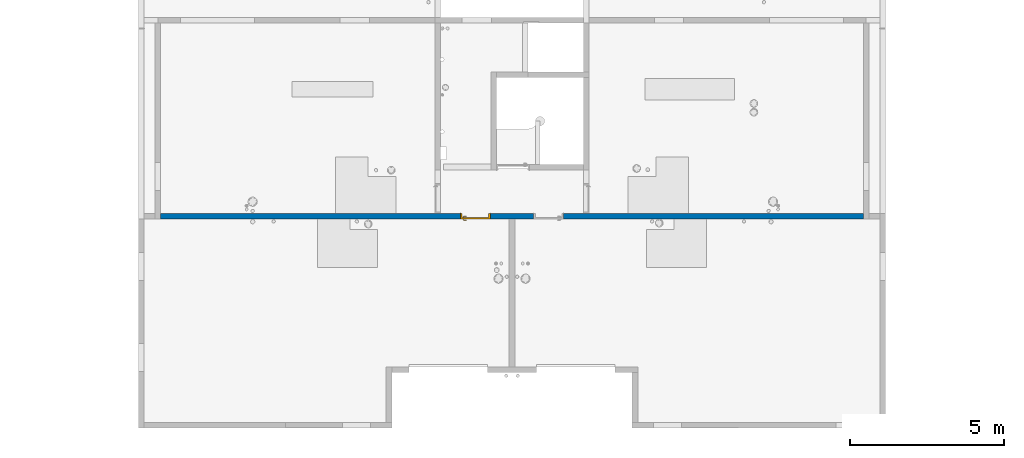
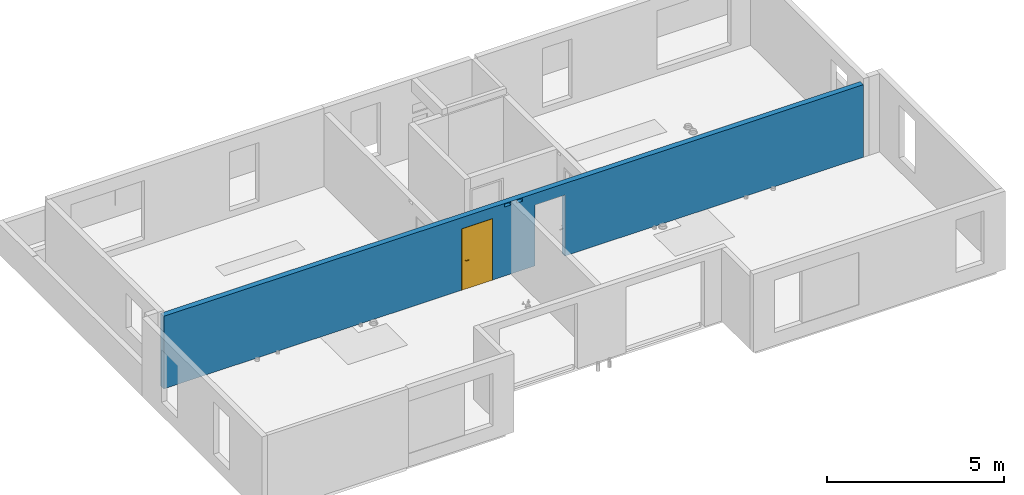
# One storey, part 8 of 28: 1 door, 1 wall, 6 openings.
"""IFC2X3 building model written with IfcOpenShell, lengths in centimetres."""

from ifc_helpers import new_model, entity, si_unit, converted_unit, derived_unit, direction, frame, frame_2d, origin, place, context, subcontext, project, spatial, rectangle, extrude, faceted_brep, source, transform, mapped, material, material_list, layer, layer_set, layer_usage, type_object, type_shapes, element, fill, save


model = new_model("IFC2X3")

# Units and contexts
model_context = context("Model", 3, precision=0.001, world=origin(), true_north=direction((6.12303176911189e-17, 1.0)))
body_context = subcontext(model_context, "Body", "Model", "MODEL_VIEW")
ifc_project = project(units=[si_unit("LENGTHUNIT", "METRE", prefix="CENTI"), si_unit("AREAUNIT", "SQUARE_METRE"), si_unit("VOLUMEUNIT", "CUBIC_METRE"), converted_unit("PLANEANGLEUNIT", "DEGREE", entity("IfcRatioMeasure", 0.0174532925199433), si_unit("PLANEANGLEUNIT", "RADIAN"), dimensions=[0, 0, 0, 0, 0, 0, 0]), si_unit("MASSUNIT", "GRAM", prefix="KILO"), derived_unit("MASSDENSITYUNIT", [(si_unit("MASSUNIT", "GRAM", prefix="KILO"), 1), (si_unit("LENGTHUNIT", "METRE"), -3)]), si_unit("TIMEUNIT", "SECOND"), si_unit("FREQUENCYUNIT", "HERTZ"), si_unit("THERMODYNAMICTEMPERATUREUNIT", "DEGREE_CELSIUS"), derived_unit("THERMALTRANSMITTANCEUNIT", [(si_unit("MASSUNIT", "GRAM", prefix="KILO"), 1), (si_unit("THERMODYNAMICTEMPERATUREUNIT", "KELVIN"), -1), (si_unit("TIMEUNIT", "SECOND"), -3)]), derived_unit("VOLUMETRICFLOWRATEUNIT", [(si_unit("LENGTHUNIT", "METRE"), 3), (si_unit("TIMEUNIT", "SECOND"), -1)]), si_unit("ELECTRICCURRENTUNIT", "AMPERE"), si_unit("ELECTRICVOLTAGEUNIT", "VOLT"), si_unit("POWERUNIT", "WATT"), si_unit("FORCEUNIT", "NEWTON"), si_unit("ILLUMINANCEUNIT", "LUX"), si_unit("LUMINOUSFLUXUNIT", "LUMEN"), si_unit("LUMINOUSINTENSITYUNIT", "CANDELA"), derived_unit("USERDEFINED", [(si_unit("MASSUNIT", "GRAM", prefix="KILO"), -1), (si_unit("LENGTHUNIT", "METRE"), -2), (si_unit("TIMEUNIT", "SECOND"), 3), (si_unit("LUMINOUSFLUXUNIT", "LUMEN"), 1)]), derived_unit("LINEARVELOCITYUNIT", [(si_unit("LENGTHUNIT", "METRE"), 1), (si_unit("TIMEUNIT", "SECOND"), -1)]), si_unit("PRESSUREUNIT", "PASCAL"), derived_unit("USERDEFINED", [(si_unit("LENGTHUNIT", "METRE"), -2), (si_unit("MASSUNIT", "GRAM", prefix="KILO"), 1), (si_unit("TIMEUNIT", "SECOND"), -2)])], contexts=[model_context])

# Site, building, storey
site_placement = place(None, origin())
site = spatial("IfcSite", under=ifc_project, at=site_placement, Name="Default", CompositionType="ELEMENT")
building_placement = place(site_placement, origin())
building = spatial("IfcBuilding", under=site, at=building_placement, Name="CAGE 03", CompositionType="ELEMENT")
storey_placement = place(building_placement, frame((0.0, 0.0, 1420.0)))
storey = spatial("IfcBuildingStorey", under=building, at=storey_placement, Name="R+5", CompositionType="ELEMENT", Elevation=1420.0)

# Wall, openings, door
ifc_material_1 = material(Name="Béton, C25/30")
ifc_layer = layer(ifc_material_1, 18.0)
ifc_layer_set = layer_set([ifc_layer], Name="Mur de base:Voile BA 18")
ifc_layer_usage = layer_usage(ifc_layer_set, "AXIS2", "NEGATIVE", 9.0)
wall_type = type_object("IfcWallType", Name="Mur de base:Voile BA 18", PredefinedType="STANDARD", material=ifc_layer_set)
wall_placement = place(storey_placement, frame((5941.36582014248, 4483.6606660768, 0.0)))
wall = element("IfcWallStandardCase", 1, at=wall_placement, inside=storey, type_object=wall_type, material=ifc_layer_usage, Name="Mur de base:Voile BA 18", ObjectType="Mur de base:Voile BA 18", context=body_context, shape_type="SweptSolid", body=[
    extrude(rectangle(XDim=2279.99999999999, YDim=17.9999999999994, at=frame_2d((1140.0, -1.73194791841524e-13), x_axis=(-1.0, 0.0))), origin(), (0.0, 0.0, 1.0), 250.0),
])
opening_1_placement = place(wall_placement, origin())
element("IfcOpeningElement", 2, at=opening_1_placement, cuts=wall, Name="Mur de base:Voile BA 18", ObjectType="Opening", context=body_context, shape_type="SweptSolid", body=[
    extrude(rectangle(XDim=210.000000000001, YDim=18.0000000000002, at=frame_2d((4.33431068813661e-13, -2.1316282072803e-13), x_axis=(0.0, 1.0))), frame((1381.0, 9.0, 105.0), z_axis=(0.0, 1.0, 0.0), x_axis=(1.0, 0.0, 0.0)), (0.0, 0.0, 1.0), 96.9999999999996),
])
opening_2_placement = place(wall_placement, origin())
element("IfcOpeningElement", 3, at=opening_2_placement, cuts=wall, Name="Mur de base:Voile BA 18", ObjectType="Opening", context=body_context, shape_type="SweptSolid", body=[
    extrude(rectangle(XDim=210.000000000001, YDim=18.0000000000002, at=frame_2d((-4.33431068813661e-13, -2.1316282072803e-13), x_axis=(0.0, 1.0))), frame((899.0, 9.0, 105.0), z_axis=(0.0, 1.0, 0.0), x_axis=(1.0, 0.0, 0.0)), (0.0, 0.0, 1.0), 96.9999999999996),
])
opening_3_placement = place(wall_placement, origin())
element("IfcOpeningElement", 4, at=opening_3_placement, cuts=wall, Name="Mur de base:Voile BA 18", ObjectType="Opening", context=body_context, shape_type="SweptSolid", body=[
    extrude(rectangle(XDim=10.0000000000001, YDim=19.9999999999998, at=frame_2d((4.33431068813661e-13, -1.08357767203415e-13), x_axis=(0.0, 1.0))), frame((1121.0, -9.0, 242.500000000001), z_axis=(0.0, 1.0, 0.0), x_axis=(1.0, 0.0, 0.0)), (0.0, 0.0, 1.0), 17.9999999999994),
])
opening_4_placement = place(wall_placement, origin())
element("IfcOpeningElement", 5, at=opening_4_placement, cuts=wall, Name="Mur de base:Voile BA 18", ObjectType="Opening", context=body_context, shape_type="SweptSolid", body=[
    extrude(rectangle(XDim=10.0000000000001, YDim=19.9999999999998, at=frame_2d((4.33431068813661e-13, -1.08357767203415e-13), x_axis=(0.0, 1.0))), frame((1159.0, -9.0, 242.500000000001), z_axis=(0.0, 1.0, 0.0), x_axis=(1.0, 0.0, 0.0)), (0.0, 0.0, 1.0), 17.9999999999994),
])
opening_5_placement = place(wall_placement, frame((1069.5, 9.0, 0.0)))
opening_5 = element("IfcOpeningElement", 6, at=opening_5_placement, cuts=wall, Name="Int. Simple:HB93:1", ObjectType="Opening", context=body_context, shape_type="SweptSolid", body=[
    extrude(rectangle(XDim=210.000000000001, YDim=96.9999999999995, at=frame_2d((105.000000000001, 48.4999999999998), x_axis=(1.0, 0.0))), frame((0.0, 0.0, 0.0), z_axis=(0.0, -1.0, 0.0), x_axis=(0.0, 0.0, 1.0)), (0.0, 0.0, 1.0), 18.0),
])
opening_6_placement = place(wall_placement, frame((1307.5, 9.0, 0.0)))
element("IfcOpeningElement", 7, at=opening_6_placement, cuts=wall, Name="Int. Simple:HB93:1", ObjectType="Opening", context=body_context, shape_type="SweptSolid", body=[
    extrude(rectangle(XDim=210.000000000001, YDim=96.9999999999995, at=frame_2d((105.000000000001, 48.4999999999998), x_axis=(1.0, 0.0))), frame((0.0, 0.0, 0.0), z_axis=(0.0, -1.0, 0.0), x_axis=(0.0, 0.0, 1.0)), (0.0, 0.0, 1.0), 18.0),
])
ifc_material_2 = material(Name="Finition Peinture - Blanc satiné")
ifc_material_3 = material(Name="Bois - Panneau de porte")
ifc_material_4 = material(Name="Bois - Cadre de porte")
ifc_material_list_1 = material_list([ifc_material_2, ifc_material_3, ifc_material_4])
ifc_material_list_2 = material_list([ifc_material_2, ifc_material_3, ifc_material_4])
door_style = type_object("IfcDoorStyle", Name="HB93", ConstructionType="NOTDEFINED", OperationType="SINGLE_SWING_LEFT", ParameterTakesPrecedence=False, Sizeable=False, material=ifc_material_list_2)
shared_shape = source(origin(), body_context, "Body", "Brep", [
    faceted_brep([(10.5352761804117, -0.500000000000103, 86.6003983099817), (11.5000000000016, -0.500000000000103, 87.0), (11.5000000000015, -0.500000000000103, 108.0), (10.5352761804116, -0.500000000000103, 108.399601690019), (9.50000000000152, -0.500000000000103, 108.535898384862), (8.46472381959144, -0.500000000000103, 108.399601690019), (7.50000000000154, -0.500000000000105, 108.0), (7.50000000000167, -0.500000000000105, 87.0), (8.46472381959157, -0.500000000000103, 86.6003983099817), (9.50000000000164, -0.500000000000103, 86.464101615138), (10.5352761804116, 0.0, 108.399601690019), (11.5000000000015, 0.0, 108.0), (11.5000000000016, 0.0, 87.0), (10.5352761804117, 0.0, 86.6003983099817), (9.50000000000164, 0.0, 86.464101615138), (8.46472381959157, 0.0, 86.6003983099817), (7.50000000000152, 0.0, 87.0), (7.50000000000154, 0.0, 108.0), (8.46472381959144, 0.0, 108.399601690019), (9.50000000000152, 0.0, 108.535898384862)], [[[0, 1, 2, 3, 4, 5, 6, 7, 8, 9]], [[10, 11, 12, 13, 14, 15, 16, 17, 18, 19]], [[16, 15, 8, 7]], [[8, 15, 14, 9]], [[14, 13, 0, 9]], [[13, 12, 1, 0]], [[2, 1, 12, 11]], [[11, 10, 3, 2]], [[3, 10, 19, 4]], [[19, 18, 5, 4]], [[18, 17, 6, 5]], [[7, 6, 17, 16]]]),
    faceted_brep([(10.5352761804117, 4.0, 86.6003983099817), (11.5000000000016, 4.0, 87.0), (11.5000000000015, 4.0, 108.0), (10.5352761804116, 4.0, 108.399601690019), (9.50000000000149, 4.0, 108.535898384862), (8.46472381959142, 4.0, 108.399601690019), (7.50000000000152, 4.0, 108.0), (7.50000000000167, 4.0, 87.0), (8.46472381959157, 4.0, 86.6003983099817), (9.50000000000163, 4.0, 86.464101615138), (10.5352761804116, 4.49999999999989, 108.399601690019), (11.5000000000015, 4.4999999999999, 108.0), (11.5000000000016, 4.4999999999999, 87.0), (10.5352761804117, 4.49999999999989, 86.6003983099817), (9.50000000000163, 4.49999999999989, 86.464101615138), (8.46472381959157, 4.49999999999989, 86.6003983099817), (7.50000000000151, 4.49999999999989, 87.0), (7.50000000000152, 4.49999999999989, 108.0), (8.46472381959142, 4.49999999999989, 108.399601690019), (9.50000000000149, 4.49999999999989, 108.535898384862)], [[[0, 1, 2, 3, 4, 5, 6, 7, 8, 9]], [[10, 11, 12, 13, 14, 15, 16, 17, 18, 19]], [[11, 10, 3, 2]], [[3, 10, 19, 4]], [[19, 18, 5, 4]], [[18, 17, 6, 5]], [[7, 6, 17, 16]], [[16, 15, 8, 7]], [[8, 15, 14, 9]], [[14, 13, 0, 9]], [[13, 12, 1, 0]], [[2, 1, 12, 11]]]),
    faceted_brep([(9.29747013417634, -0.500000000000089, 100.778044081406), (9.70252986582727, -0.500000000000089, 100.778044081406), (10.1000000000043, -0.500000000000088, 100.699999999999), (10.1000000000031, -0.500000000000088, 99.3000000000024), (9.70252986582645, -0.500000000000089, 99.2219559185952), (9.29747013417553, -0.500000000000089, 99.221955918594), (8.89999999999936, -0.500000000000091, 99.2999999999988), (8.89999999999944, -0.500000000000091, 100.7), (8.89999999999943, -3.26509507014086, 100.7), (9.29747013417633, -3.10045754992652, 100.778044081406), (10.9023585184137, -4.70534593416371, 100.778044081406), (11.0701397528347, -4.30028620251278, 100.778044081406), (9.70252986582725, -2.93267631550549, 100.778044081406), (10.1000000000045, -2.76803879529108, 100.7), (10.1000000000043, -2.76803879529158, 99.3000000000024), (9.70252986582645, -2.93267631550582, 99.2219559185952), (11.0701397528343, -4.30028620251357, 99.2219559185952), (10.9023585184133, -4.70534593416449, 99.221955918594), (9.29747013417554, -3.10045754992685, 99.221955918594), (8.89999999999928, -3.26509507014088, 99.2999999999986), (10.7377209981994, -5.1028160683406, 100.7), (11.2347772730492, -3.90281606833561, 100.7), (11.2347772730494, -3.90281606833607, 99.3000000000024), (10.7377209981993, -5.10281606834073, 99.2999999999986), (19.5018640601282, -5.1028160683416, 99.2999999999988), (19.5018640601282, -4.70534593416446, 99.221955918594), (19.5018640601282, -4.30028620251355, 99.2219559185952), (19.5018640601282, -3.90281606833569, 99.3000000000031), (19.5018640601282, -3.90281606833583, 100.7), (19.5018640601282, -4.30028620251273, 100.778044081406), (19.5018640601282, -4.70534593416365, 100.778044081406), (19.5018640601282, -5.10281606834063, 100.699999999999), (14.7307697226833, -5.10281606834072, 100.7), (15.28600190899, -4.5028160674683, 100.78786867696), (15.3683206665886, -3.9028160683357, 100.7), (15.3683206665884, -3.90281606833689, 99.3000000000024), (15.2860018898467, -4.50281607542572, 99.2121313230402), (14.7307700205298, -5.10281606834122, 99.2999999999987)], [[[0, 1, 2, 3, 4, 5, 6, 7]], [[8, 9, 0, 7]], [[9, 10, 11, 12, 1, 0]], [[12, 13, 2, 1]], [[3, 2, 13, 14]], [[14, 15, 4, 3]], [[15, 16, 17, 18, 5, 4]], [[18, 19, 6, 5]], [[7, 6, 19, 8]], [[20, 10, 9, 8]], [[11, 21, 13, 12]], [[14, 13, 21, 22]], [[22, 16, 15, 14]], [[17, 23, 19, 18]], [[8, 19, 23, 20]], [[24, 25, 26, 27, 28, 29, 30, 31]], [[32, 30, 33]], [[31, 30, 32]], [[10, 20, 32]], [[33, 34, 11]], [[21, 11, 34]], [[34, 29, 28]], [[30, 29, 33]], [[29, 34, 33]], [[10, 32, 33]], [[10, 33, 11]], [[22, 21, 34, 28, 27, 35]], [[35, 26, 36]], [[37, 36, 25]], [[22, 35, 16]], [[35, 27, 26]], [[24, 37, 25]], [[23, 17, 37]], [[37, 17, 36]], [[17, 16, 36]], [[16, 35, 36]], [[25, 36, 26]], [[20, 23, 37, 24, 31, 32]]]),
    faceted_brep([(9.29747013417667, 4.49999999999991, 100.778044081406), (8.89999999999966, 4.49999999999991, 100.7), (8.89999999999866, 4.49999999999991, 99.2999999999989), (9.2974701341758, 4.49999999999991, 99.221955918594), (9.70252986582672, 4.49999999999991, 99.2219559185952), (10.1000000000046, 4.49999999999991, 99.3000000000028), (10.1000000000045, 4.49999999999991, 100.7), (9.70252986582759, 4.49999999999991, 100.778044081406), (10.1000000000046, 6.7485204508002, 99.3000000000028), (10.1000000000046, 6.74852045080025, 100.7), (9.70252986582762, 6.91315797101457, 100.778044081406), (11.0838906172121, 8.29451872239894, 100.778044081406), (10.9161093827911, 8.69957845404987, 100.778044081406), (9.29747013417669, 7.0809392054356, 100.778044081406), (8.89999999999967, 7.24557672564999, 100.7), (8.89999999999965, 7.24557672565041, 99.2999999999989), (9.29747013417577, 7.08093920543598, 99.221955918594), (10.9161093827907, 8.69957845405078, 99.221955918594), (11.0838906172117, 8.29451872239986, 99.2219559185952), (9.7025298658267, 6.91315797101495, 99.2219559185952), (11.2485281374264, 7.89704858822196, 99.3000000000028), (11.2485281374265, 7.89704858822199, 100.7), (10.7514718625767, 9.0970485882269, 100.7), (10.751471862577, 9.0970485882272, 99.2999999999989), (19.504578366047, 7.89704858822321, 99.3000000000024), (19.504578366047, 8.29451872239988, 99.2219559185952), (19.504578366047, 8.6995784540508, 99.221955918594), (19.504578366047, 9.09704858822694, 99.2999999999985), (19.504578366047, 9.09704858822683, 100.7), (19.504578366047, 8.69957845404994, 100.778044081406), (19.504578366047, 8.29451872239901, 100.778044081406), (19.504578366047, 7.89704858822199, 100.7), (15.3765520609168, 7.89704858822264, 99.3000000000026), (15.3765532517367, 7.89704858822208, 100.7), (15.294234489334, 8.49704858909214, 100.78786867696), (14.7445205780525, 9.09704858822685, 100.7), (14.7445204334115, 9.09704858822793, 99.2999999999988), (15.2942345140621, 8.49704858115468, 99.2121313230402)], [[[0, 1, 2, 3, 4, 5, 6, 7]], [[6, 5, 8, 9]], [[9, 10, 7, 6]], [[10, 11, 12, 13, 0, 7]], [[13, 14, 1, 0]], [[2, 1, 14, 15]], [[15, 16, 3, 2]], [[16, 17, 18, 19, 4, 3]], [[19, 8, 5, 4]], [[9, 8, 20, 21]], [[21, 11, 10, 9]], [[12, 22, 14, 13]], [[15, 14, 22, 23]], [[23, 17, 16, 15]], [[18, 20, 8, 19]], [[24, 25, 26, 27, 28, 29, 30, 31]], [[21, 20, 32, 24, 31, 33]], [[33, 30, 34]], [[35, 34, 29]], [[21, 33, 11]], [[33, 31, 30]], [[28, 35, 29]], [[22, 12, 35]], [[35, 12, 34]], [[12, 11, 34]], [[11, 33, 34]], [[29, 34, 30]], [[22, 35, 28, 27, 36, 23]], [[36, 26, 37]], [[27, 26, 36]], [[17, 23, 36]], [[37, 32, 18]], [[20, 18, 32]], [[32, 25, 24]], [[26, 25, 37]], [[25, 32, 37]], [[17, 36, 37]], [[17, 37, 18]]]),
    faceted_brep([(3.50000000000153, 4.0, 206.5), (93.5000000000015, 4.0, 206.5), (93.5000000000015, 4.0, 0.0), (3.50000000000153, 4.0, 0.0), (3.50000000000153, 0.0, 206.5), (3.50000000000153, 0.0, 0.0), (93.5000000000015, 0.0, 0.0), (93.5000000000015, 0.0, 206.5)], [[[0, 1, 2, 3]], [[4, 5, 6, 7]], [[1, 0, 4, 7]], [[2, 1, 7, 6]], [[3, 2, 6, 5]], [[0, 3, 5, 4]]]),
    faceted_brep([(0.0, 0.0, 0.0), (0.0, 18.0, 0.0), (5.0, 18.0, 0.0), (5.0, 4.0, 0.0), (3.50000000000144, 4.0, 0.0), (3.50000000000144, 0.0, 0.0), (0.0, 0.0, 210.0), (0.0, 18.0, 210.0), (97.0, 18.0, 210.0), (97.0, 18.0, 0.0), (92.0, 18.0, 0.0), (92.0, 18.0, 205.0), (5.0, 18.0, 205.0), (5.0, 4.0, 205.0), (92.0, 4.0, 205.0), (92.0, 4.0, 0.0), (93.4999999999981, 4.0, 0.0), (93.4999999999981, 4.0, 206.5), (3.50000000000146, 4.0, 206.5), (3.50000000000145, 0.0, 206.5), (93.4999999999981, 0.0, 206.5), (93.4999999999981, 0.0, 0.0), (97.0, 0.0, 0.0), (97.0, 0.0, 210.0)], [[[0, 1, 2, 3, 4, 5]], [[1, 0, 6, 7]], [[2, 1, 7, 8, 9, 10, 11, 12]], [[3, 2, 12, 13]], [[4, 3, 13, 14, 15, 16, 17, 18]], [[5, 4, 18, 19]], [[0, 5, 19, 20, 21, 22, 23, 6]], [[8, 23, 22, 9]], [[22, 21, 16, 15, 10, 9]], [[14, 11, 10, 15]], [[20, 17, 16, 21]], [[7, 6, 23, 8]], [[13, 12, 11, 14]], [[19, 18, 17, 20]]]),
    faceted_brep([(1.5, 18.0, 0.0), (-1.49999999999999, 18.0, 0.0), (-1.49999999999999, 18.5000000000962, 0.0), (1.5, 18.5000000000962, 0.0), (1.5, 18.0, 208.500000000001), (95.4999999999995, 18.0, 208.500000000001), (95.4999999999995, 18.0, 0.0), (98.4999999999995, 18.0, 0.0), (98.4999999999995, 18.0, 211.500000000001), (-1.49999999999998, 18.0, 211.500000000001), (-1.49999999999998, 18.5000000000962, 211.500000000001), (98.4999999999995, 18.5000000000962, 211.500000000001), (98.4999999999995, 18.5000000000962, 0.0), (95.4999999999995, 18.5000000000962, 0.0), (95.4999999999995, 18.5000000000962, 208.500000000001), (1.50000000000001, 18.5000000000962, 208.500000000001)], [[[0, 1, 2, 3]], [[1, 0, 4, 5, 6, 7, 8, 9]], [[2, 1, 9, 10]], [[3, 2, 10, 11, 12, 13, 14, 15]], [[0, 3, 15, 4]], [[6, 13, 12, 7]], [[5, 14, 13, 6]], [[11, 8, 7, 12]], [[10, 9, 8, 11]], [[4, 15, 14, 5]]]),
    faceted_brep([(-1.49999999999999, -0.5, 0.0), (1.5, -0.5, 0.0), (1.5, -0.5, 208.500000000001), (95.4999999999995, -0.5, 208.500000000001), (95.4999999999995, -0.5, 0.0), (98.4999999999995, -0.5, 0.0), (98.4999999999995, -0.5, 211.500000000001), (-1.49999999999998, -0.5, 211.500000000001), (-1.49999999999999, 0.0, 0.0), (-1.49999999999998, 0.0, 211.500000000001), (1.5, 0.0, 0.0), (98.4999999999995, 0.0, 211.500000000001), (98.4999999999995, 0.0, 0.0), (95.4999999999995, 0.0, 0.0), (95.4999999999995, 0.0, 208.500000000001), (1.50000000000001, 0.0, 208.500000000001)], [[[0, 1, 2, 3, 4, 5, 6, 7]], [[8, 0, 7, 9]], [[10, 8, 9, 11, 12, 13, 14, 15]], [[1, 10, 15, 2]], [[3, 14, 13, 4]], [[11, 6, 5, 12]], [[9, 7, 6, 11]], [[2, 15, 14, 3]], [[4, 13, 12, 5]], [[1, 0, 8, 10]]]),
])
type_shapes(door_style, [shared_shape])
door_placement = place(opening_5_placement, frame((-97.0, -18.0, 0.0)))
door = element("IfcDoor", 8, at=door_placement, inside=storey, type_object=door_style, material=ifc_material_list_1, Name="Int. Simple:HB93", ObjectType="HB93", OverallHeight=210.000000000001, OverallWidth=96.9999999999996, context=body_context, shape_type="MappedRepresentation", body=[
    mapped(shared_shape, transform((0.0, 0.0, 0.0), scale=1.0)),
])
fill(opening_5, door)

save(model, "model.ifc")
